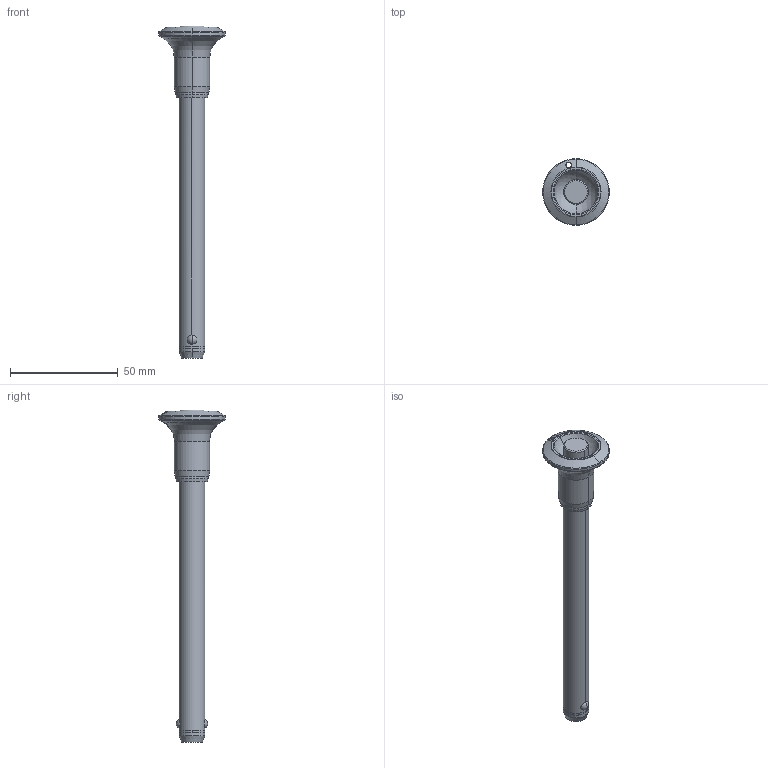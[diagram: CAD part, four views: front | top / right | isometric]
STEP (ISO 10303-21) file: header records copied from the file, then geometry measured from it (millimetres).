
FILE_DESCRIPTION (( 'STEP AP214' ), '1' );
FILE_NAME ('113.10-12-110.step', '2019-06-17T05:35:45', ( 'user' ), ( '' ), 'SwSTEP 2.0', 'SolidWorks 2019', '' );
FILE_SCHEMA (( 'AUTOMOTIVE_DESIGN' ));
Length unit declared in the file: millimetre
Products named in the file (1): 113.10-12-110
Bounding box: 31 x 31 x 154.1 mm (x, y, z)
Volume: 22843.2 mm3; surface area: 7896.1 mm2
Topology: 1 solids, 1 shells, 51 faces, 107 edges, 62 vertices
Faces by surface type: cylinder 16, cone 12, torus 10, plane 7, sphere 6
Entity records: 1586 total; most frequent: CARTESIAN_POINT 425, DIRECTION 268, ORIENTED_EDGE 214, AXIS2_PLACEMENT_3D 119, EDGE_CURVE 107, CIRCLE 67, VERTEX_POINT 62, EDGE_LOOP 57
